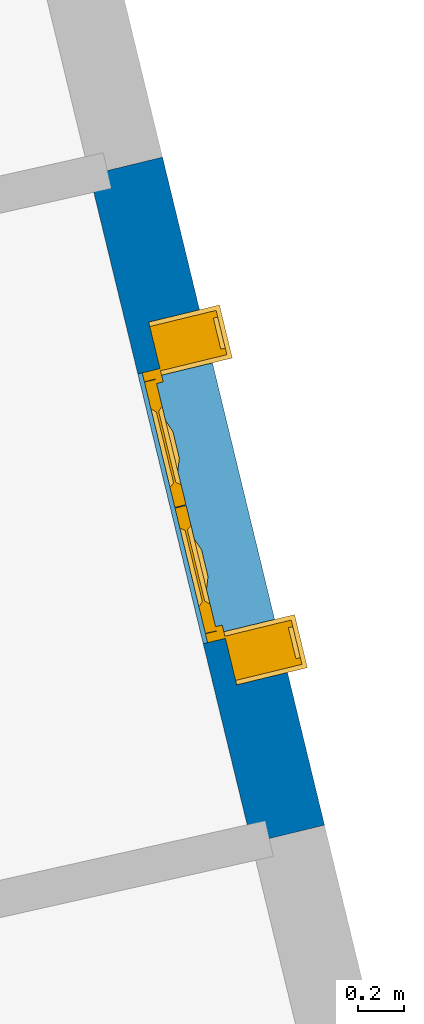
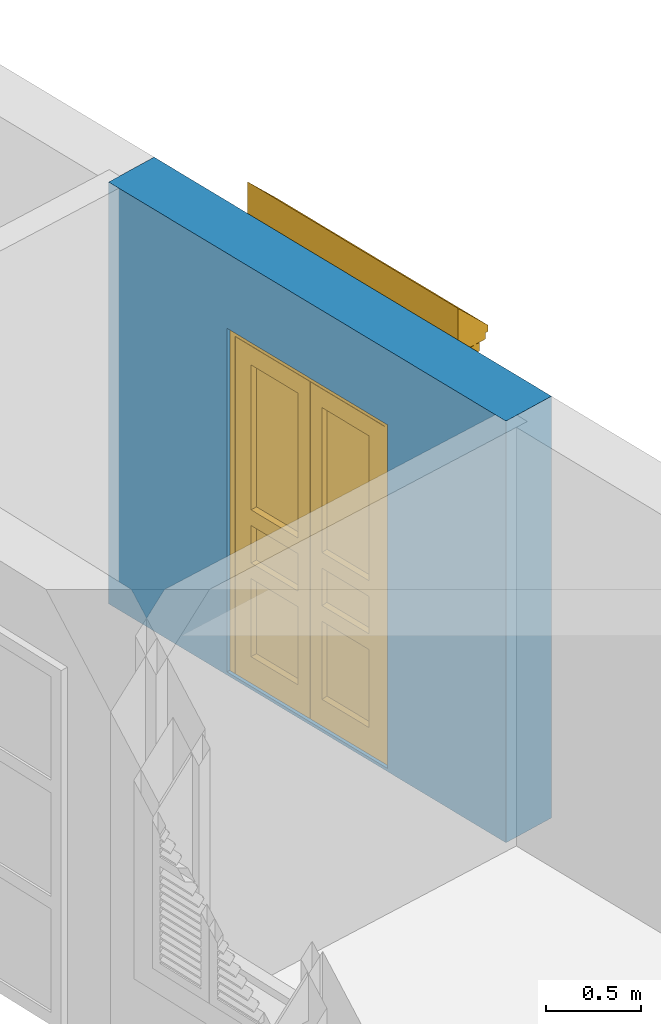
# One storey, part 13 of 13: 1 door, 1 wall, 1 opening.
"""IFC4 building model written with IfcOpenShell, lengths in metres."""

from ifc_helpers import new_model, si_unit, frame, origin, origin_with_axes, place, context, subcontext, project, spatial, polyline, outline, extrude, faceted_brep, source, transform, mapped, material, layer, layer_set, layer_usage, type_object, type_shapes, element, fill, save


model = new_model("IFC4")

# Units and contexts
model_context = context("Model", 3, world=origin_with_axes())
body_context = subcontext(model_context, "Body", "Model", "MODEL_VIEW")
ifc_project = project(units=[si_unit("PLANEANGLEUNIT", "RADIAN"), si_unit("MASSUNIT", "GRAM", prefix="KILO"), si_unit("FORCEUNIT", "NEWTON", prefix="KILO"), si_unit("LENGTHUNIT", "METRE"), si_unit("AREAUNIT", "SQUARE_METRE"), si_unit("VOLUMEUNIT", "CUBIC_METRE")], contexts=[model_context, model_context])

# Site, building, storey
site_placement = place(None, origin_with_axes())
site = spatial("IfcSite", under=ifc_project, at=site_placement, Name="Site plot-10", CompositionType="ELEMENT")
building_placement = place(None, origin_with_axes())
building = spatial("IfcBuilding", under=site, at=building_placement, Name="Building plot-10", CompositionType="ELEMENT")
storey_placement = place(None, origin_with_axes())
storey = spatial("IfcBuildingStorey", under=building, at=storey_placement, Name="plot-10 0", CompositionType="ELEMENT", Elevation=0.0)

# Wall, opening, door
ifc_material = material(Name="Masonry")
ifc_layer = layer(ifc_material, 0.33, ventilated=False)
ifc_layer_set = layer_set([ifc_layer], Name="exterior_0.08_0.25")
ifc_layer_usage = layer_usage(ifc_layer_set, "AXIS2", "POSITIVE", -0.25)
wall_type = type_object("IfcWallType", Name="exterior_0.08_0.25", PredefinedType="SOLIDWALL", material=ifc_layer_set)
wall_placement = place(storey_placement, frame((-15.9755120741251, 15.3332703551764, 0.0), z_axis=(0.0, 0.0, 1.0), x_axis=(-0.235675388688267, 0.971831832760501, 0.0)))
wall = element("IfcWall", 1, at=wall_placement, inside=storey, type_object=wall_type, material=ifc_layer_usage, Name="exterior", context=body_context, shape_type="SweptSolid", body=[
    extrude(outline(polyline([(-7.41171285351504e-16, 0.0799999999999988), (-5.39803427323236e-16, -0.25), (3.02013944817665, -0.25), (3.02013944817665, 0.0800000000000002), (-7.41171285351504e-16, 0.0799999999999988)])), origin_with_axes(), (0.0, 0.0, 1.0), 2.7),
])
opening_placement = place(wall_placement, frame((0.900069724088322, 0.0, 0.02)))
opening = element("IfcOpeningElement", 2, at=opening_placement, cuts=wall, Name="My Opening", ObjectType="Opening", context=body_context, shape_type="SweptSolid", body=[
    extrude(outline(polyline([(0.0, -0.27), (1.22, -0.27), (1.22000000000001, 1.1), (3.66373598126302e-15, 1.1), (0.0, -0.27)])), origin_with_axes(), (0.0, 0.0, 1.0), 2.2),
])
door_type = type_object("IfcDoorType", Name="tunis_entry_short", OperationType="SINGLE_SWING_LEFT", PredefinedType="NOTDEFINED")
shared_shape = source(origin(), body_context, "Body", "Brep", [
    faceted_brep([(0.608, 0.33, 2.158), (0.042, 0.33, 2.158), (0.042, 0.28, 2.158), (0.608, 0.28, 2.158), (0.518, 0.33, 2.038), (0.162, 0.33, 2.038), (0.608, 0.33, 1.11), (0.608, 0.28, 1.11), (0.162, 0.28, 2.038), (0.518, 0.28, 2.038), (0.042, 0.33, 1.11), (0.042, 0.28, 1.11), (0.503, 0.31, 2.018), (0.182, 0.31, 2.018), (0.518, 0.33, 1.11), (0.162, 0.33, 1.11), (0.608, 0.28, 1.01), (0.608, 0.33, 1.01), (0.518, 0.28, 1.11), (0.182, 0.3, 2.018), (0.503, 0.3, 2.018), (0.162, 0.28, 1.11), (0.042, 0.33, 1.01), (0.042, 0.28, 1.01), (0.182, 0.31, 1.13), (0.503, 0.31, 1.13), (0.518, 0.33, 1.01), (0.162, 0.33, 1.01), (0.608, 0.28, 0.77), (0.608, 0.33, 0.77), (0.518, 0.28, 1.01), (0.503, 0.3, 1.13), (0.182, 0.3, 1.13), (0.162, 0.28, 1.01), (0.042, 0.33, 0.77), (0.042, 0.28, 0.77), (0.518, 0.33, 0.77), (0.162, 0.33, 0.77), (0.608, 0.28, 0.67), (0.608, 0.33, 0.67), (0.518, 0.28, 0.77), (0.162, 0.28, 0.77), (0.042, 0.33, 0.67), (0.042, 0.28, 0.67), (0.503, 0.31, 0.99), (0.182, 0.31, 0.99), (0.503, 0.31, 0.79), (0.518, 0.33, 0.67), (0.162, 0.33, 0.67), (0.182, 0.31, 0.79), (0.608, 0.33, 0.0), (0.608, 0.28, 0.0), (0.518, 0.28, 0.67), (0.503, 0.3, 0.99), (0.503, 0.3, 0.79), (0.182, 0.3, 0.99), (0.182, 0.3, 0.79), (0.162, 0.28, 0.67), (0.042, 0.28, 0.0), (0.042, 0.33, 0.0), (0.518, 0.33, 0.17), (0.162, 0.33, 0.17), (0.518, 0.28, 0.17), (0.483, 0.3, 0.97), (0.483, 0.3, 0.81), (0.202, 0.3, 0.97), (0.202, 0.3, 0.81), (0.162, 0.28, 0.17), (0.503, 0.31, 0.65), (0.182, 0.31, 0.65), (0.503, 0.31, 0.19), (0.182, 0.31, 0.19), (0.503, 0.3, 0.65), (0.503, 0.3, 0.19), (0.182, 0.3, 0.65), (0.483, 0.29, 0.97), (0.483, 0.29, 0.81), (0.202, 0.29, 0.97), (0.202, 0.29, 0.81), (0.182, 0.3, 0.19), (0.403, 0.26, 0.89), (0.282, 0.26, 0.89), (1.178, 0.33, 2.158), (0.612, 0.33, 2.158), (0.612, 0.28, 2.158), (1.178, 0.28, 2.158), (1.058, 0.33, 2.038), (0.702, 0.33, 2.038), (0.612, 0.33, 1.11), (0.612, 0.28, 1.11), (0.702, 0.28, 2.038), (1.058, 0.28, 2.038), (1.178, 0.28, 1.11), (1.178, 0.33, 1.11), (1.038, 0.31, 2.018), (0.717, 0.31, 2.018), (0.702, 0.33, 1.11), (1.058, 0.33, 1.11), (0.612, 0.33, 1.01), (0.612, 0.28, 1.01), (0.702, 0.28, 1.11), (0.717, 0.3, 2.018), (1.038, 0.3, 2.018), (1.058, 0.28, 1.11), (1.178, 0.28, 1.01), (1.178, 0.33, 1.01), (1.038, 0.31, 1.13), (0.717, 0.31, 1.13), (0.702, 0.33, 1.01), (1.058, 0.33, 1.01), (0.612, 0.33, 0.77), (0.612, 0.28, 0.77), (0.702, 0.28, 1.01), (0.717, 0.3, 1.13), (1.038, 0.3, 1.13), (1.058, 0.28, 1.01), (1.178, 0.28, 0.77), (1.178, 0.33, 0.77), (0.702, 0.33, 0.77), (1.058, 0.33, 0.77), (0.612, 0.33, 0.67), (0.612, 0.28, 0.67), (0.702, 0.28, 0.77), (1.058, 0.28, 0.77), (1.178, 0.28, 0.67), (1.178, 0.33, 0.67), (1.038, 0.31, 0.99), (0.717, 0.31, 0.99), (0.717, 0.31, 0.79), (0.702, 0.33, 0.67), (1.058, 0.33, 0.67), (1.038, 0.31, 0.79), (0.612, 0.28, 0.0), (0.612, 0.33, 0.0), (0.702, 0.28, 0.67), (0.717, 0.3, 0.79), (0.717, 0.3, 0.99), (1.038, 0.3, 0.99), (1.038, 0.3, 0.79), (1.058, 0.28, 0.67), (1.178, 0.33, 0.0), (1.178, 0.28, 0.0), (0.702, 0.33, 0.17), (1.058, 0.33, 0.17), (0.702, 0.28, 0.17), (0.737, 0.3, 0.81), (0.737, 0.3, 0.97), (1.018, 0.3, 0.97), (1.018, 0.3, 0.81), (1.058, 0.28, 0.17), (1.038, 0.31, 0.65), (0.717, 0.31, 0.65), (0.717, 0.31, 0.19), (1.038, 0.31, 0.19), (0.717, 0.3, 0.19), (0.717, 0.3, 0.65), (1.038, 0.3, 0.65), (0.737, 0.29, 0.81), (0.737, 0.29, 0.97), (1.018, 0.29, 0.97), (1.018, 0.29, 0.81), (1.038, 0.3, 0.19), (0.817, 0.26, 0.89), (0.938, 0.26, 0.89), (1.37, -0.058, 2.42), (1.37, -0.045, 2.407001), (1.41, -0.045, 2.407001), (1.41, -0.058, 2.42), (1.37, -0.075, 2.485001), (1.37, 0.0, 2.485001), (1.37, -0.04, 2.39), (1.41, -0.04, 2.39), (1.41, 0.0, 2.485001), (1.41, -0.075, 2.485001), (1.37, -0.075, 2.425), (1.41, -0.075, 2.425), (1.37, -0.082, 2.51), (1.37, 0.0, 2.59), (1.37, 0.0, 2.39), (1.41, 0.0, 2.39), (1.41, 0.0, 2.59), (1.41, -0.082, 2.51), (1.37, -0.1, 2.528), (1.41, -0.1, 2.528), (1.37, -0.125, 2.535), (1.37, -0.137, 2.59), (1.41, -0.137, 2.59), (1.41, -0.125, 2.535), (1.37, -0.137, 2.535), (1.41, -0.137, 2.535), (1.214, -0.058, 2.42), (1.214, -0.045, 2.407001), (1.254, -0.045, 2.407001), (1.254, -0.058, 2.42), (1.214, -0.075, 2.485001), (1.214, 0.0, 2.485001), (1.214, -0.04, 2.39), (1.254, -0.04, 2.39), (1.254, 0.0, 2.485001), (1.254, -0.075, 2.485001), (1.214, -0.075, 2.425), (1.254, -0.075, 2.425), (1.214, -0.082, 2.51), (1.214, 0.0, 2.59), (1.214, 0.0, 2.39), (1.254, 0.0, 2.39), (1.254, 0.0, 2.59), (1.254, -0.082, 2.51), (1.214, -0.1, 2.528), (1.254, -0.1, 2.528), (1.214, -0.125, 2.535), (1.214, -0.137, 2.59), (1.254, -0.137, 2.59), (1.254, -0.125, 2.535), (1.214, -0.137, 2.535), (1.254, -0.137, 2.535), (1.058, -0.058, 2.42), (1.058, -0.045, 2.407001), (1.098, -0.045, 2.407001), (1.098, -0.058, 2.42), (1.058, -0.075, 2.485001), (1.058, 0.0, 2.485001), (1.058, -0.04, 2.39), (1.098, -0.04, 2.39), (1.098, 0.0, 2.485001), (1.098, -0.075, 2.485001), (1.058, -0.075, 2.425), (1.098, -0.075, 2.425), (1.058, -0.082, 2.51), (1.058, 0.0, 2.59), (1.058, 0.0, 2.39), (1.098, 0.0, 2.39), (1.098, 0.0, 2.59), (1.098, -0.082, 2.51), (1.058, -0.1, 2.528), (1.098, -0.1, 2.528), (1.058, -0.125, 2.535), (1.058, -0.137, 2.59), (1.098, -0.137, 2.59), (1.098, -0.125, 2.535), (1.058, -0.137, 2.535), (1.098, -0.137, 2.535), (0.902, -0.058, 2.42), (0.902, -0.045, 2.407001), (0.942, -0.045, 2.407001), (0.942, -0.058, 2.42), (0.902, -0.075, 2.485001), (0.902, 0.0, 2.485001), (0.902, -0.04, 2.39), (0.942, -0.04, 2.39), (0.942, 0.0, 2.485001), (0.942, -0.075, 2.485001), (0.902, -0.075, 2.425), (0.942, -0.075, 2.425), (0.902, -0.082, 2.51), (0.902, 0.0, 2.59), (0.902, 0.0, 2.39), (0.942, 0.0, 2.39), (0.942, 0.0, 2.59), (0.942, -0.082, 2.51), (0.902, -0.1, 2.528), (0.942, -0.1, 2.528), (0.902, -0.125, 2.535), (0.902, -0.137, 2.59), (0.942, -0.137, 2.59), (0.942, -0.125, 2.535), (0.902, -0.137, 2.535), (0.942, -0.137, 2.535), (0.746, -0.058, 2.42), (0.746, -0.045, 2.407001), (0.786, -0.045, 2.407001), (0.786, -0.058, 2.42), (0.746, -0.075, 2.485001), (0.746, 0.0, 2.485001), (0.746, -0.04, 2.39), (0.786, -0.04, 2.39), (0.786, 0.0, 2.485001), (0.786, -0.075, 2.485001), (0.746, -0.075, 2.425), (0.786, -0.075, 2.425), (0.746, -0.082, 2.51), (0.746, 0.0, 2.59), (0.746, 0.0, 2.39), (0.786, 0.0, 2.39), (0.786, 0.0, 2.59), (0.786, -0.082, 2.51), (0.746, -0.1, 2.528), (0.786, -0.1, 2.528), (0.746, -0.125, 2.535), (0.746, -0.137, 2.59), (0.786, -0.137, 2.59), (0.786, -0.125, 2.535), (0.746, -0.137, 2.535), (0.786, -0.137, 2.535), (0.59, -0.058, 2.42), (0.59, -0.045, 2.407001), (0.63, -0.045, 2.407001), (0.63, -0.058, 2.42), (0.59, -0.075, 2.485001), (0.59, 0.0, 2.485001), (0.59, -0.04, 2.39), (0.63, -0.04, 2.39), (0.63, 0.0, 2.485001), (0.63, -0.075, 2.485001), (0.59, -0.075, 2.425), (0.63, -0.075, 2.425), (0.59, -0.082, 2.51), (0.59, 0.0, 2.59), (0.59, 0.0, 2.39), (0.63, 0.0, 2.39), (0.63, 0.0, 2.59), (0.63, -0.082, 2.51), (0.59, -0.1, 2.528), (0.63, -0.1, 2.528), (0.59, -0.125, 2.535), (0.59, -0.137, 2.59), (0.63, -0.137, 2.59), (0.63, -0.125, 2.535), (0.59, -0.137, 2.535), (0.63, -0.137, 2.535), (0.434, -0.058, 2.42), (0.434, -0.045, 2.407001), (0.474, -0.045, 2.407001), (0.474, -0.058, 2.42), (0.434, -0.075, 2.485001), (0.434, 0.0, 2.485001), (0.434, -0.04, 2.39), (0.474, -0.04, 2.39), (0.474, 0.0, 2.485001), (0.474, -0.075, 2.485001), (0.434, -0.075, 2.425), (0.474, -0.075, 2.425), (0.434, -0.082, 2.51), (0.434, 0.0, 2.59), (0.434, 0.0, 2.39), (0.474, 0.0, 2.39), (0.474, 0.0, 2.59), (0.474, -0.082, 2.51), (0.434, -0.1, 2.528), (0.474, -0.1, 2.528), (0.434, -0.125, 2.535), (0.434, -0.137, 2.59), (0.474, -0.137, 2.59), (0.474, -0.125, 2.535), (0.434, -0.137, 2.535), (0.474, -0.137, 2.535), (0.278, -0.058, 2.42), (0.278, -0.045, 2.407001), (0.318, -0.045, 2.407001), (0.318, -0.058, 2.42), (0.278, -0.075, 2.485001), (0.278, 0.0, 2.485001), (0.278, -0.04, 2.39), (0.318, -0.04, 2.39), (0.318, 0.0, 2.485001), (0.318, -0.075, 2.485001), (0.278, -0.075, 2.425), (0.318, -0.075, 2.425), (0.278, -0.082, 2.51), (0.278, 0.0, 2.59), (0.278, 0.0, 2.39), (0.318, 0.0, 2.39), (0.318, 0.0, 2.59), (0.318, -0.082, 2.51), (0.278, -0.1, 2.528), (0.318, -0.1, 2.528), (0.278, -0.125, 2.535), (0.278, -0.137, 2.59), (0.318, -0.137, 2.59), (0.318, -0.125, 2.535), (0.278, -0.137, 2.535), (0.318, -0.137, 2.535), (0.122, -0.058, 2.42), (0.122, -0.045, 2.407001), (0.162, -0.045, 2.407001), (0.162, -0.058, 2.42), (0.122, -0.075, 2.485001), (0.122, 0.0, 2.485001), (0.122, -0.04, 2.39), (0.162, -0.04, 2.39), (0.162, 0.0, 2.485001), (0.162, -0.075, 2.485001), (0.122, -0.075, 2.425), (0.162, -0.075, 2.425), (0.122, -0.082, 2.51), (0.122, 0.0, 2.59), (0.122, 0.0, 2.39), (0.162, 0.0, 2.39), (0.162, 0.0, 2.59), (0.162, -0.082, 2.51), (0.122, -0.1, 2.528), (0.162, -0.1, 2.528), (0.122, -0.125, 2.535), (0.122, -0.137, 2.59), (0.162, -0.137, 2.59), (0.162, -0.125, 2.535), (0.122, -0.137, 2.535), (0.162, -0.137, 2.535), (-0.034, -0.058, 2.42), (-0.034, -0.045, 2.407001), (0.006, -0.045, 2.407001), (0.006, -0.058, 2.42), (-0.034, -0.075, 2.485001), (-0.034, 0.0, 2.485001), (-0.034, -0.04, 2.39), (0.006, -0.04, 2.39), (0.006, 0.0, 2.485001), (0.006, -0.075, 2.485001), (-0.034, -0.075, 2.425), (0.006, -0.075, 2.425), (-0.034, -0.082, 2.51), (-0.034, 0.0, 2.59), (-0.034, 0.0, 2.39), (0.006, 0.0, 2.39), (0.006, 0.0, 2.59), (0.006, -0.082, 2.51), (-0.034, -0.1, 2.528), (0.006, -0.1, 2.528), (-0.034, -0.125, 2.535), (-0.034, -0.137, 2.59), (0.006, -0.137, 2.59), (0.006, -0.125, 2.535), (-0.034, -0.137, 2.535), (0.006, -0.137, 2.535), (-0.19, -0.058, 2.42), (-0.19, -0.045, 2.407001), (-0.15, -0.045, 2.407001), (-0.15, -0.058, 2.42), (-0.19, -0.075, 2.485001), (-0.19, 0.0, 2.485001), (-0.19, -0.04, 2.39), (-0.15, -0.04, 2.39), (-0.15, 0.0, 2.485001), (-0.15, -0.075, 2.485001), (-0.19, -0.075, 2.425), (-0.15, -0.075, 2.425), (-0.19, -0.082, 2.51), (-0.19, 0.0, 2.59), (-0.19, 0.0, 2.39), (-0.15, 0.0, 2.39), (-0.15, 0.0, 2.59), (-0.15, -0.082, 2.51), (-0.19, -0.1, 2.528), (-0.15, -0.1, 2.528), (-0.19, -0.125, 2.535), (-0.19, -0.137, 2.59), (-0.15, -0.137, 2.59), (-0.15, -0.125, 2.535), (-0.19, -0.137, 2.535), (-0.15, -0.137, 2.535), (1.18, 0.33, 0.0), (1.18, 0.33, 2.16), (1.22, 0.33, 2.2), (1.22, 0.33, 0.0), (1.18, 0.28, 0.0), (1.18, 0.28, 2.16), (1.22, 0.25, 2.2), (1.22, 0.25, 0.0), (1.16, 0.28, 0.0), (1.16, 0.28, 2.14), (0.04, 0.28, 2.16), (0.04, 0.33, 2.16), (1.16, 0.25, 2.14), (1.16, 0.25, 0.0), (0.06, 0.28, 2.14), (0.04, 0.33, 0.0), (0.04, 0.28, 0.0), (0.0, 0.33, 2.2), (0.06, 0.25, 2.14), (0.06, 0.28, 0.0), (0.0, 0.33, 0.0), (0.0, 0.25, 0.0), (0.0, 0.25, 2.2), (0.06, 0.25, 0.0), (-0.19, -0.197, 2.67), (-0.19, 0.020086, 2.882274), (-0.19, -0.177, 2.63), (-0.19, -0.197, 2.63), (1.41, -0.197, 2.67), (1.41, 0.020086, 2.882274), (-0.19, -0.177, 2.59), (-0.19, 0.020086, 2.592274), (1.41, -0.197, 2.63), (1.41, -0.177, 2.63), (1.41, 0.020086, 2.592274), (1.41, -0.177, 2.59), (-0.02, -0.05, 0.48), (-0.16, -0.05, 0.48), (-0.19, -0.05, 0.45), (0.01, -0.05, 0.45), (-0.02, -0.03, 0.48), (-0.16, -0.03, 0.48), (-0.16, -0.05, 2.19), (-0.19, -0.05, 2.19), (-0.21, -0.07, 0.45), (0.03, -0.07, 0.45), (0.01, -0.05, 2.19), (-0.02, -0.05, 2.19), (-0.02, -0.03, 2.19), (-0.16, -0.03, 2.19), (-0.19, -0.05, 2.22), (-0.16, -0.05, 2.22), (-0.19, 0.25, 2.19), (-0.19, 0.25, 0.45), (-0.21, 0.25, 0.45), (-0.21, -0.07, 0.0), (0.03, -0.07, 0.0), (0.01, 0.25, 0.45), (0.03, 0.25, 0.45), (0.01, 0.25, 2.19), (0.03, 0.25, 0.0), (-0.21, 0.25, 0.0), (-0.02, -0.05, 2.22), (0.01, -0.05, 2.22), (-0.19, 0.25, 2.22), (-0.19, -0.05, 2.39), (-0.16, -0.05, 2.36), (1.21, 0.25, 2.19), (1.21, -0.05, 2.19), (-0.02, 0.25, 2.22), (1.21, -0.05, 2.22), (0.01, -0.05, 2.36), (-0.02, -0.05, 2.36), (-0.19, 0.25, 2.39), (-0.02, -0.03, 2.22), (-0.16, -0.03, 2.22), (-0.16, -0.03, 2.36), (-0.02, -0.05, 2.39), (0.01, 0.25, 2.39), (1.21, 0.25, 2.39), (1.21, 0.25, 0.45), (1.21, -0.05, 0.45), (-0.02, 0.25, 2.39), (1.24, -0.05, 2.19), (1.24, -0.05, 2.22), (1.21, -0.03, 2.22), (0.01, -0.03, 2.22), (0.01, -0.03, 2.36), (0.01, -0.05, 2.39), (-0.02, -0.03, 2.36), (1.21, -0.05, 2.39), (1.24, 0.25, 2.22), (1.24, 0.25, 2.39), (1.41, 0.25, 2.19), (1.41, 0.25, 0.45), (1.19, 0.25, 0.45), (1.19, -0.07, 0.45), (1.24, -0.05, 0.48), (1.38, -0.05, 2.19), (1.38, -0.05, 2.22), (1.21, -0.05, 2.36), (1.24, -0.05, 2.36), (1.21, -0.03, 2.36), (1.24, -0.05, 2.39), (1.41, 0.25, 2.22), (1.41, 0.25, 2.39), (1.41, -0.05, 2.19), (1.41, -0.05, 0.45), (1.43, 0.25, 0.0), (1.19, 0.25, 0.0), (1.19, -0.07, 0.0), (1.43, -0.07, 0.45), (1.24, -0.03, 0.48), (1.24, -0.03, 2.19), (1.38, -0.05, 0.48), (1.38, -0.03, 2.19), (1.41, -0.05, 2.22), (1.38, -0.03, 2.22), (1.24, -0.03, 2.22), (1.24, -0.03, 2.36), (1.41, -0.05, 2.39), (1.43, 0.25, 0.45), (1.43, -0.07, 0.0), (1.38, -0.03, 0.48), (1.38, -0.05, 2.36), (1.38, -0.03, 2.36)], [[[0, 1, 2, 3]], [[1, 0, 4, 5]], [[6, 0, 3, 7]], [[3, 2, 8, 9]], [[1, 10, 11, 2]], [[12, 13, 5, 4]], [[0, 6, 14, 4]], [[5, 15, 10, 1]], [[7, 16, 17, 6]], [[9, 18, 7, 3]], [[19, 20, 9, 8]], [[2, 11, 21, 8]], [[10, 22, 23, 11]], [[13, 24, 15, 5]], [[24, 13, 12, 25]], [[25, 12, 4, 14]], [[26, 14, 6, 17]], [[15, 27, 22, 10]], [[16, 28, 29, 17]], [[16, 7, 18, 30]], [[20, 31, 18, 9]], [[19, 32, 31, 20]], [[32, 19, 8, 21]], [[11, 23, 33, 21]], [[22, 34, 35, 23]], [[24, 25, 14, 15]], [[14, 26, 27, 15]], [[36, 26, 17, 29]], [[27, 37, 34, 22]], [[28, 38, 39, 29]], [[30, 40, 28, 16]], [[30, 18, 21, 33]], [[31, 32, 21, 18]], [[41, 33, 23, 35]], [[34, 42, 43, 35]], [[44, 45, 27, 26]], [[46, 44, 26, 36]], [[29, 39, 47, 36]], [[37, 48, 42, 34]], [[45, 49, 37, 27]], [[50, 39, 38, 51]], [[40, 52, 38, 28]], [[53, 54, 40, 30]], [[55, 53, 30, 33]], [[56, 55, 33, 41]], [[57, 41, 35, 43]], [[58, 43, 42, 59]], [[44, 46, 49, 45]], [[49, 46, 36, 37]], [[36, 47, 48, 37]], [[60, 47, 39, 50]], [[59, 42, 48, 61]], [[51, 38, 52, 62]], [[51, 58, 59, 50]], [[52, 40, 41, 57]], [[54, 56, 41, 40]], [[63, 64, 54, 53]], [[53, 55, 65, 63]], [[55, 56, 66, 65]], [[67, 57, 43, 58]], [[68, 69, 48, 47]], [[70, 68, 47, 60]], [[61, 60, 50, 59]], [[69, 71, 61, 48]], [[72, 73, 62, 52]], [[58, 51, 62, 67]], [[74, 72, 52, 57]], [[64, 66, 56, 54]], [[75, 76, 64, 63]], [[77, 75, 63, 65]], [[78, 77, 65, 66]], [[79, 74, 57, 67]], [[68, 70, 71, 69]], [[71, 70, 60, 61]], [[73, 79, 67, 62]], [[73, 72, 74, 79]], [[76, 78, 66, 64]], [[80, 76, 75]], [[81, 80, 75, 77]], [[81, 77, 78]], [[78, 76, 80, 81]], [[82, 83, 84, 85]], [[86, 87, 83, 82]], [[83, 88, 89, 84]], [[90, 91, 85, 84]], [[85, 92, 93, 82]], [[87, 86, 94, 95]], [[87, 96, 88, 83]], [[82, 93, 97, 86]], [[88, 98, 99, 89]], [[84, 89, 100, 90]], [[91, 90, 101, 102]], [[91, 103, 92, 85]], [[92, 104, 105, 93]], [[86, 97, 106, 94]], [[107, 95, 94, 106]], [[96, 87, 95, 107]], [[98, 88, 96, 108]], [[93, 105, 109, 97]], [[98, 110, 111, 99]], [[112, 100, 89, 99]], [[90, 100, 113, 101]], [[101, 113, 114, 102]], [[103, 91, 102, 114]], [[103, 115, 104, 92]], [[104, 116, 117, 105]], [[97, 96, 107, 106]], [[97, 109, 108, 96]], [[110, 98, 108, 118]], [[105, 117, 119, 109]], [[110, 120, 121, 111]], [[99, 111, 122, 112]], [[115, 103, 100, 112]], [[100, 103, 114, 113]], [[116, 104, 115, 123]], [[116, 124, 125, 117]], [[108, 109, 126, 127]], [[118, 108, 127, 128]], [[118, 129, 120, 110]], [[117, 125, 130, 119]], [[109, 119, 131, 126]], [[132, 121, 120, 133]], [[111, 121, 134, 122]], [[112, 122, 135, 136]], [[115, 112, 136, 137]], [[123, 115, 137, 138]], [[124, 116, 123, 139]], [[140, 125, 124, 141]], [[126, 131, 128, 127]], [[119, 118, 128, 131]], [[119, 130, 129, 118]], [[133, 120, 129, 142]], [[143, 130, 125, 140]], [[144, 134, 121, 132]], [[133, 140, 141, 132]], [[139, 123, 122, 134]], [[122, 123, 138, 135]], [[136, 135, 145, 146]], [[146, 147, 137, 136]], [[147, 148, 138, 137]], [[141, 124, 139, 149]], [[129, 130, 150, 151]], [[142, 129, 151, 152]], [[140, 133, 142, 143]], [[130, 143, 153, 150]], [[134, 144, 154, 155]], [[149, 144, 132, 141]], [[139, 134, 155, 156]], [[135, 138, 148, 145]], [[146, 145, 157, 158]], [[147, 146, 158, 159]], [[148, 147, 159, 160]], [[149, 139, 156, 161]], [[150, 153, 152, 151]], [[143, 142, 152, 153]], [[144, 149, 161, 154]], [[161, 156, 155, 154]], [[145, 148, 160, 157]], [[158, 157, 162]], [[159, 158, 162, 163]], [[160, 159, 163]], [[163, 162, 157, 160]], [[164, 165, 166, 167]], [[168, 169, 165, 164]], [[166, 165, 170, 171]], [[167, 166, 172, 173]], [[174, 164, 167, 175]], [[168, 176, 177, 169]], [[170, 165, 169, 178]], [[174, 168, 164]], [[170, 178, 179, 171]], [[179, 172, 166, 171]], [[172, 180, 181, 173]], [[175, 167, 173]], [[168, 174, 175, 173]], [[176, 168, 173, 181]], [[176, 182, 177]], [[180, 172, 169, 177]], [[178, 169, 172, 179]], [[183, 181, 180]], [[182, 176, 181, 183]], [[182, 184, 185, 177]], [[177, 185, 186, 180]], [[187, 183, 180, 186]], [[182, 183, 187, 184]], [[188, 185, 184]], [[189, 186, 185, 188]], [[189, 187, 186]], [[184, 187, 189, 188]], [[190, 191, 192, 193]], [[194, 195, 191, 190]], [[192, 191, 196, 197]], [[193, 192, 198, 199]], [[200, 190, 193, 201]], [[194, 202, 203, 195]], [[196, 191, 195, 204]], [[200, 194, 190]], [[196, 204, 205, 197]], [[205, 198, 192, 197]], [[198, 206, 207, 199]], [[201, 193, 199]], [[194, 200, 201, 199]], [[202, 194, 199, 207]], [[202, 208, 203]], [[206, 198, 195, 203]], [[204, 195, 198, 205]], [[209, 207, 206]], [[208, 202, 207, 209]], [[208, 210, 211, 203]], [[203, 211, 212, 206]], [[213, 209, 206, 212]], [[208, 209, 213, 210]], [[214, 211, 210]], [[215, 212, 211, 214]], [[215, 213, 212]], [[210, 213, 215, 214]], [[216, 217, 218, 219]], [[220, 221, 217, 216]], [[218, 217, 222, 223]], [[219, 218, 224, 225]], [[226, 216, 219, 227]], [[220, 228, 229, 221]], [[222, 217, 221, 230]], [[226, 220, 216]], [[222, 230, 231, 223]], [[231, 224, 218, 223]], [[224, 232, 233, 225]], [[227, 219, 225]], [[220, 226, 227, 225]], [[228, 220, 225, 233]], [[228, 234, 229]], [[232, 224, 221, 229]], [[230, 221, 224, 231]], [[235, 233, 232]], [[234, 228, 233, 235]], [[234, 236, 237, 229]], [[229, 237, 238, 232]], [[239, 235, 232, 238]], [[234, 235, 239, 236]], [[240, 237, 236]], [[241, 238, 237, 240]], [[241, 239, 238]], [[236, 239, 241, 240]], [[242, 243, 244, 245]], [[246, 247, 243, 242]], [[244, 243, 248, 249]], [[245, 244, 250, 251]], [[252, 242, 245, 253]], [[246, 254, 255, 247]], [[248, 243, 247, 256]], [[252, 246, 242]], [[248, 256, 257, 249]], [[257, 250, 244, 249]], [[250, 258, 259, 251]], [[253, 245, 251]], [[246, 252, 253, 251]], [[254, 246, 251, 259]], [[254, 260, 255]], [[258, 250, 247, 255]], [[256, 247, 250, 257]], [[261, 259, 258]], [[260, 254, 259, 261]], [[260, 262, 263, 255]], [[255, 263, 264, 258]], [[265, 261, 258, 264]], [[260, 261, 265, 262]], [[266, 263, 262]], [[267, 264, 263, 266]], [[267, 265, 264]], [[262, 265, 267, 266]], [[268, 269, 270, 271]], [[272, 273, 269, 268]], [[270, 269, 274, 275]], [[271, 270, 276, 277]], [[278, 268, 271, 279]], [[272, 280, 281, 273]], [[274, 269, 273, 282]], [[278, 272, 268]], [[274, 282, 283, 275]], [[283, 276, 270, 275]], [[276, 284, 285, 277]], [[279, 271, 277]], [[272, 278, 279, 277]], [[280, 272, 277, 285]], [[280, 286, 281]], [[284, 276, 273, 281]], [[282, 273, 276, 283]], [[287, 285, 284]], [[286, 280, 285, 287]], [[286, 288, 289, 281]], [[281, 289, 290, 284]], [[291, 287, 284, 290]], [[286, 287, 291, 288]], [[292, 289, 288]], [[293, 290, 289, 292]], [[293, 291, 290]], [[288, 291, 293, 292]], [[294, 295, 296, 297]], [[298, 299, 295, 294]], [[296, 295, 300, 301]], [[297, 296, 302, 303]], [[304, 294, 297, 305]], [[298, 306, 307, 299]], [[300, 295, 299, 308]], [[304, 298, 294]], [[300, 308, 309, 301]], [[309, 302, 296, 301]], [[302, 310, 311, 303]], [[305, 297, 303]], [[298, 304, 305, 303]], [[306, 298, 303, 311]], [[306, 312, 307]], [[310, 302, 299, 307]], [[308, 299, 302, 309]], [[313, 311, 310]], [[312, 306, 311, 313]], [[312, 314, 315, 307]], [[307, 315, 316, 310]], [[317, 313, 310, 316]], [[312, 313, 317, 314]], [[318, 315, 314]], [[319, 316, 315, 318]], [[319, 317, 316]], [[314, 317, 319, 318]], [[320, 321, 322, 323]], [[324, 325, 321, 320]], [[322, 321, 326, 327]], [[323, 322, 328, 329]], [[330, 320, 323, 331]], [[324, 332, 333, 325]], [[326, 321, 325, 334]], [[330, 324, 320]], [[326, 334, 335, 327]], [[335, 328, 322, 327]], [[328, 336, 337, 329]], [[331, 323, 329]], [[324, 330, 331, 329]], [[332, 324, 329, 337]], [[332, 338, 333]], [[336, 328, 325, 333]], [[334, 325, 328, 335]], [[339, 337, 336]], [[338, 332, 337, 339]], [[338, 340, 341, 333]], [[333, 341, 342, 336]], [[343, 339, 336, 342]], [[338, 339, 343, 340]], [[344, 341, 340]], [[345, 342, 341, 344]], [[345, 343, 342]], [[340, 343, 345, 344]], [[346, 347, 348, 349]], [[350, 351, 347, 346]], [[348, 347, 352, 353]], [[349, 348, 354, 355]], [[356, 346, 349, 357]], [[350, 358, 359, 351]], [[352, 347, 351, 360]], [[356, 350, 346]], [[352, 360, 361, 353]], [[361, 354, 348, 353]], [[354, 362, 363, 355]], [[357, 349, 355]], [[350, 356, 357, 355]], [[358, 350, 355, 363]], [[358, 364, 359]], [[362, 354, 351, 359]], [[360, 351, 354, 361]], [[365, 363, 362]], [[364, 358, 363, 365]], [[364, 366, 367, 359]], [[359, 367, 368, 362]], [[369, 365, 362, 368]], [[364, 365, 369, 366]], [[370, 367, 366]], [[371, 368, 367, 370]], [[371, 369, 368]], [[366, 369, 371, 370]], [[372, 373, 374, 375]], [[376, 377, 373, 372]], [[374, 373, 378, 379]], [[375, 374, 380, 381]], [[382, 372, 375, 383]], [[376, 384, 385, 377]], [[378, 373, 377, 386]], [[382, 376, 372]], [[378, 386, 387, 379]], [[387, 380, 374, 379]], [[380, 388, 389, 381]], [[383, 375, 381]], [[376, 382, 383, 381]], [[384, 376, 381, 389]], [[384, 390, 385]], [[388, 380, 377, 385]], [[386, 377, 380, 387]], [[391, 389, 388]], [[390, 384, 389, 391]], [[390, 392, 393, 385]], [[385, 393, 394, 388]], [[395, 391, 388, 394]], [[390, 391, 395, 392]], [[396, 393, 392]], [[397, 394, 393, 396]], [[397, 395, 394]], [[392, 395, 397, 396]], [[398, 399, 400, 401]], [[402, 403, 399, 398]], [[400, 399, 404, 405]], [[401, 400, 406, 407]], [[408, 398, 401, 409]], [[402, 410, 411, 403]], [[404, 399, 403, 412]], [[408, 402, 398]], [[404, 412, 413, 405]], [[413, 406, 400, 405]], [[406, 414, 415, 407]], [[409, 401, 407]], [[402, 408, 409, 407]], [[410, 402, 407, 415]], [[410, 416, 411]], [[414, 406, 403, 411]], [[412, 403, 406, 413]], [[417, 415, 414]], [[416, 410, 415, 417]], [[416, 418, 419, 411]], [[411, 419, 420, 414]], [[421, 417, 414, 420]], [[416, 417, 421, 418]], [[422, 419, 418]], [[423, 420, 419, 422]], [[423, 421, 420]], [[418, 421, 423, 422]], [[424, 425, 426, 427]], [[428, 429, 425, 424]], [[426, 425, 430, 431]], [[427, 426, 432, 433]], [[434, 424, 427, 435]], [[428, 436, 437, 429]], [[430, 425, 429, 438]], [[434, 428, 424]], [[430, 438, 439, 431]], [[439, 432, 426, 431]], [[432, 440, 441, 433]], [[435, 427, 433]], [[428, 434, 435, 433]], [[436, 428, 433, 441]], [[436, 442, 437]], [[440, 432, 429, 437]], [[438, 429, 432, 439]], [[443, 441, 440]], [[442, 436, 441, 443]], [[442, 444, 445, 437]], [[437, 445, 446, 440]], [[447, 443, 440, 446]], [[442, 443, 447, 444]], [[448, 445, 444]], [[449, 446, 445, 448]], [[449, 447, 446]], [[444, 447, 449, 448]], [[450, 451, 452, 453]], [[454, 455, 451, 450]], [[453, 452, 456, 457]], [[453, 457, 454, 450]], [[458, 459, 455, 454]], [[455, 460, 461, 451]], [[457, 456, 462, 463]], [[458, 454, 457, 463]], [[463, 462, 459, 458]], [[459, 464, 460, 455]], [[465, 461, 460, 466]], [[451, 461, 467, 452]], [[464, 459, 462, 468]], [[466, 460, 464, 469]], [[470, 467, 461, 465]], [[465, 466, 471, 470]], [[456, 452, 467, 472]], [[469, 464, 468, 473]], [[473, 471, 466, 469]], [[471, 472, 467, 470]], [[468, 462, 456, 472]], [[473, 468, 472, 471]], [[474, 475, 476, 477]], [[478, 479, 475, 474]], [[480, 476, 475, 481]], [[482, 477, 476, 483]], [[474, 477, 482, 478]], [[482, 483, 479, 478]], [[484, 481, 475, 479]], [[485, 483, 476, 480]], [[484, 485, 480, 481]], [[484, 479, 483, 485]], [[486, 487, 488, 489]], [[487, 486, 490, 491]], [[487, 492, 493, 488]], [[489, 488, 494, 495]], [[489, 496, 497, 486]], [[486, 497, 498, 490]], [[491, 490, 498, 499]], [[492, 487, 491, 499]], [[500, 493, 492, 501]], [[488, 493, 502, 503]], [[488, 503, 504, 494]], [[505, 506, 495, 494]], [[507, 489, 495, 508]], [[496, 489, 507, 509]], [[510, 511, 503, 507]], [[503, 502, 509, 507]], [[512, 497, 496, 513]], [[497, 492, 499, 498]], [[514, 502, 493, 500]], [[492, 497, 512, 501]], [[515, 500, 501, 516]], [[504, 503, 511]], [[505, 494, 504, 511]], [[511, 510, 506, 505]], [[508, 495, 506, 510]], [[508, 510, 507]], [[496, 509, 517, 518]], [[514, 519, 509, 502]], [[496, 518, 520, 513]], [[513, 521, 522, 512]], [[523, 514, 500, 515]], [[501, 512, 524, 525]], [[516, 501, 525, 526]], [[516, 522, 527, 515]], [[517, 509, 528, 529]], [[517, 530, 531, 518]], [[523, 532, 519, 514]], [[532, 528, 509, 519]], [[518, 533, 534, 520]], [[513, 520, 535, 536]], [[521, 513, 536, 537]], [[522, 521, 538, 527]], [[512, 522, 539, 524]], [[515, 527, 532, 523]], [[525, 524, 539, 526]], [[522, 516, 526, 539]], [[538, 540, 529, 528]], [[541, 517, 529, 542]], [[530, 517, 543, 544]], [[531, 530, 545, 546]], [[547, 533, 518, 531]], [[527, 538, 528, 532]], [[533, 548, 549, 534]], [[550, 520, 534, 551]], [[520, 550, 552, 535]], [[552, 537, 536, 535]], [[550, 521, 537, 552]], [[521, 550, 540, 538]], [[542, 529, 540, 553]], [[543, 517, 541, 554]], [[555, 554, 541, 542]], [[544, 543, 556, 557]], [[558, 559, 530, 544]], [[545, 530, 559]], [[560, 546, 545, 559]], [[557, 531, 546, 561]], [[533, 547, 562, 563]], [[564, 547, 531, 557]], [[548, 533, 563, 565]], [[549, 548, 556, 566]], [[534, 549, 567, 568]], [[551, 534, 568, 569]], [[550, 551, 553, 540]], [[555, 542, 553, 570]], [[566, 556, 543, 554]], [[570, 566, 554, 555]], [[557, 556, 548, 564]], [[544, 557, 561, 571]], [[559, 558, 572, 560]], [[571, 558, 544]], [[560, 572, 561, 546]], [[547, 564, 573, 562]], [[565, 563, 562, 573]], [[564, 548, 565, 573]], [[574, 549, 566, 570]], [[549, 574, 575, 567]], [[568, 567, 575, 569]], [[574, 551, 569, 575]], [[570, 553, 551, 574]], [[558, 571, 561, 572]]]),
])
type_shapes(door_type, [shared_shape])
door_placement = place(storey_placement, frame((-15.9252417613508, 16.2716191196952, 0.02), z_axis=(0.0, 0.0, 1.0), x_axis=(-0.287523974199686, 1.18563483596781, 0.0)))
door = element("IfcDoor", 3, at=door_placement, inside=storey, type_object=door_type, Name="house entrance", OverallHeight=2.2, OverallWidth=1.22, context=body_context, shape_type="MappedRepresentation", body=[
    mapped(shared_shape, transform((0.0, 0.0, 0.0), scale=1.0)),
])
fill(opening, door)

save(model, "model.ifc")
